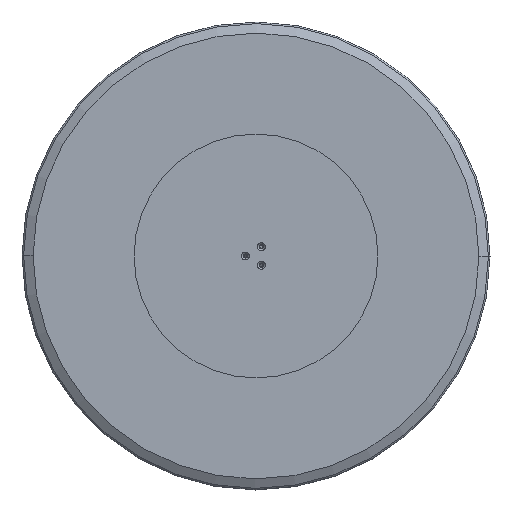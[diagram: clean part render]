
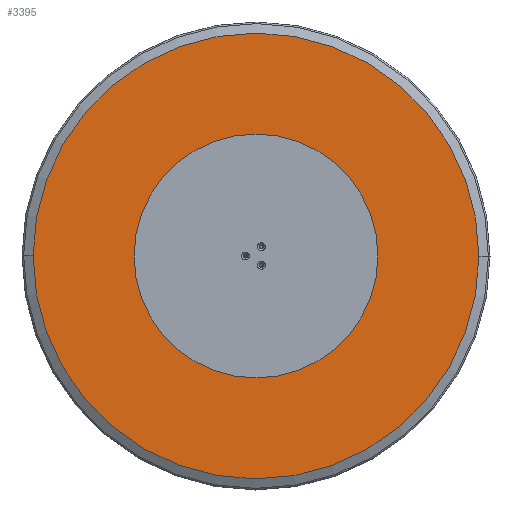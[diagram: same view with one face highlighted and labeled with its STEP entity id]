
A CAD part, front view. The second image highlights one B-rep face of the part: STEP entity #3395.
In plain terms, the highlighted planar face has unit normal (0, -1, 0).
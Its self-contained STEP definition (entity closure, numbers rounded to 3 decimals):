
#39 = CARTESIAN_POINT ( 'NONE',  ( 95., 0., -51.448 ) ) ;
#45 = DIRECTION ( 'NONE',  ( 0., 0., 1. ) ) ;
#61 = EDGE_CURVE ( 'NONE', #2631, #5964, #63, .T. ) ;
#63 = CIRCLE ( 'NONE', #4100, 484.323 ) ;
#75 = CARTESIAN_POINT ( 'NONE',  ( -95., 0., -54.848 ) ) ;
#104 = DIRECTION ( 'NONE',  ( 0., 1., 0. ) ) ;
#309 = CARTESIAN_POINT ( 'NONE',  ( 95., 0., -54.848 ) ) ;
#537 = EDGE_LOOP ( 'NONE', ( #3193, #6544 ) ) ;
#657 = CARTESIAN_POINT ( 'NONE',  ( 0., 0., 484.323 ) ) ;
#682 = AXIS2_PLACEMENT_3D ( 'NONE', #960, #3948, #3881 ) ;
#816 = CARTESIAN_POINT ( 'NONE',  ( 0., 0., 0. ) ) ;
#956 = DIRECTION ( 'NONE',  ( 0., 1., 0. ) ) ;
#960 = CARTESIAN_POINT ( 'NONE',  ( 0., 0., 0. ) ) ;
#1153 = VERTEX_POINT ( 'NONE', #2548 ) ;
#1183 = DIRECTION ( 'NONE',  ( 0., 0., 1. ) ) ;
#1436 = FACE_OUTER_BOUND ( 'NONE', #1828, .T. ) ;
#1510 = DIRECTION ( 'NONE',  ( 0., 0., 1. ) ) ;
#1598 = CARTESIAN_POINT ( 'NONE',  ( -95., 0., -54.848 ) ) ;
#1686 = CARTESIAN_POINT ( 'NONE',  ( 0., 0., 109.697 ) ) ;
#1808 = ORIENTED_EDGE ( 'NONE', *, *, #6499, .T. ) ;
#1828 = EDGE_LOOP ( 'NONE', ( #4941, #2016 ) ) ;
#1962 = DIRECTION ( 'NONE',  ( 0., 0., 1. ) ) ;
#1982 = CARTESIAN_POINT ( 'NONE',  ( 95., 0., -54.848 ) ) ;
#2016 = ORIENTED_EDGE ( 'NONE', *, *, #4156, .F. ) ;
#2206 = CIRCLE ( 'NONE', #6006, 3.4 ) ;
#2259 = CARTESIAN_POINT ( 'NONE',  ( 0., 0., 109.697 ) ) ;
#2417 = DIRECTION ( 'NONE',  ( 0., 0., 1. ) ) ;
#2435 = CIRCLE ( 'NONE', #6121, 3.4 ) ;
#2548 = CARTESIAN_POINT ( 'NONE',  ( -95., 0., -51.448 ) ) ;
#2631 = VERTEX_POINT ( 'NONE', #657 ) ;
#2769 = ORIENTED_EDGE ( 'NONE', *, *, #5407, .T. ) ;
#2851 = AXIS2_PLACEMENT_3D ( 'NONE', #2259, #5897, #5302 ) ;
#2970 = AXIS2_PLACEMENT_3D ( 'NONE', #75, #6151, #1510 ) ;
#2981 = FACE_BOUND ( 'NONE', #537, .T. ) ;
#3174 = AXIS2_PLACEMENT_3D ( 'NONE', #1598, #104, #45 ) ;
#3193 = ORIENTED_EDGE ( 'NONE', *, *, #5339, .T. ) ;
#3276 = EDGE_CURVE ( 'NONE', #4103, #3459, #2435, .T. ) ;
#3307 = VERTEX_POINT ( 'NONE', #5881 ) ;
#3395 = ADVANCED_FACE ( 'NONE', ( #3970, #2981, #5350, #1436 ), #5483, .T. ) ;
#3459 = VERTEX_POINT ( 'NONE', #39 ) ;
#3588 = CIRCLE ( 'NONE', #6126, 3.4 ) ;
#3714 = DIRECTION ( 'NONE',  ( 0., 1., 0. ) ) ;
#3881 = DIRECTION ( 'NONE',  ( 0., 0., 1. ) ) ;
#3897 = CIRCLE ( 'NONE', #2851, 3.4 ) ;
#3948 = DIRECTION ( 'NONE',  ( 0., 1., 0. ) ) ;
#3967 = CARTESIAN_POINT ( 'NONE',  ( 0., 0., -484.323 ) ) ;
#3970 = FACE_BOUND ( 'NONE', #4196, .T. ) ;
#4100 = AXIS2_PLACEMENT_3D ( 'NONE', #4475, #6495, #1962 ) ;
#4103 = VERTEX_POINT ( 'NONE', #5393 ) ;
#4156 = EDGE_CURVE ( 'NONE', #5964, #2631, #5017, .T. ) ;
#4196 = EDGE_LOOP ( 'NONE', ( #5780, #2769 ) ) ;
#4350 = EDGE_LOOP ( 'NONE', ( #1808, #5728 ) ) ;
#4359 = DIRECTION ( 'NONE',  ( 0., 1., 0. ) ) ;
#4475 = CARTESIAN_POINT ( 'NONE',  ( 0., 0., 0. ) ) ;
#4542 = CIRCLE ( 'NONE', #3174, 3.4 ) ;
#4861 = DIRECTION ( 'NONE',  ( 0., -1., 0. ) ) ;
#4941 = ORIENTED_EDGE ( 'NONE', *, *, #61, .F. ) ;
#4966 = CARTESIAN_POINT ( 'NONE',  ( 0., 0., 106.297 ) ) ;
#4994 = DIRECTION ( 'NONE',  ( 0., 0., 1. ) ) ;
#5017 = CIRCLE ( 'NONE', #682, 484.323 ) ;
#5210 = VERTEX_POINT ( 'NONE', #4966 ) ;
#5302 = DIRECTION ( 'NONE',  ( 0., 0., 1. ) ) ;
#5339 = EDGE_CURVE ( 'NONE', #3459, #4103, #3588, .T. ) ;
#5350 = FACE_BOUND ( 'NONE', #4350, .T. ) ;
#5393 = CARTESIAN_POINT ( 'NONE',  ( 95., 0., -58.248 ) ) ;
#5407 = EDGE_CURVE ( 'NONE', #3307, #1153, #5490, .T. ) ;
#5483 = PLANE ( 'NONE',  #5758 ) ;
#5490 = CIRCLE ( 'NONE', #2970, 3.4 ) ;
#5532 = EDGE_CURVE ( 'NONE', #1153, #3307, #4542, .T. ) ;
#5661 = VERTEX_POINT ( 'NONE', #6284 ) ;
#5728 = ORIENTED_EDGE ( 'NONE', *, *, #6359, .T. ) ;
#5758 = AXIS2_PLACEMENT_3D ( 'NONE', #816, #4861, #6383 ) ;
#5780 = ORIENTED_EDGE ( 'NONE', *, *, #5532, .T. ) ;
#5881 = CARTESIAN_POINT ( 'NONE',  ( -95., 0., -58.248 ) ) ;
#5897 = DIRECTION ( 'NONE',  ( 0., 1., 0. ) ) ;
#5964 = VERTEX_POINT ( 'NONE', #3967 ) ;
#6006 = AXIS2_PLACEMENT_3D ( 'NONE', #1686, #3714, #1183 ) ;
#6121 = AXIS2_PLACEMENT_3D ( 'NONE', #309, #4359, #2417 ) ;
#6126 = AXIS2_PLACEMENT_3D ( 'NONE', #1982, #956, #4994 ) ;
#6151 = DIRECTION ( 'NONE',  ( 0., 1., 0. ) ) ;
#6284 = CARTESIAN_POINT ( 'NONE',  ( 0., 0., 113.097 ) ) ;
#6359 = EDGE_CURVE ( 'NONE', #5210, #5661, #2206, .T. ) ;
#6383 = DIRECTION ( 'NONE',  ( 0., 0., -1. ) ) ;
#6495 = DIRECTION ( 'NONE',  ( 0., 1., 0. ) ) ;
#6499 = EDGE_CURVE ( 'NONE', #5661, #5210, #3897, .T. ) ;
#6544 = ORIENTED_EDGE ( 'NONE', *, *, #3276, .T. ) ;
